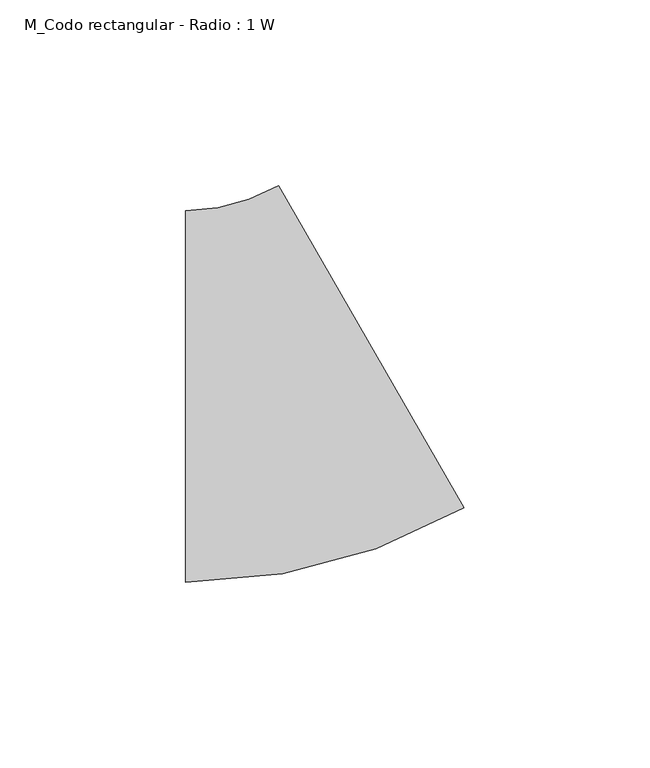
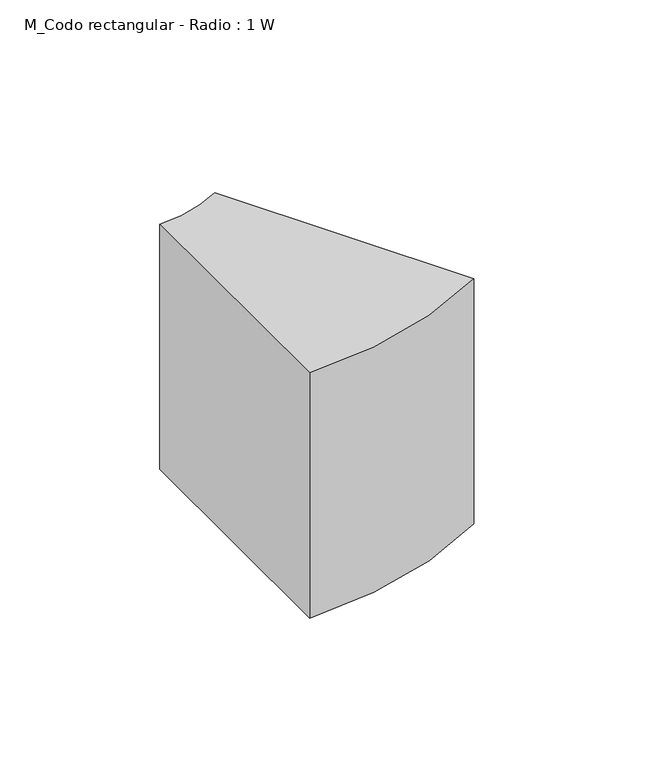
"""IFC4 building model written with IfcOpenShell, lengths in millimetres: duct fitting geometry, M_Codo rectangular - Radio : 1 W."""

from ifc_helpers import new_model, si_unit, point, frame, frame_2d, origin, place, context, project, spatial, polyline, circle_curve, trimmed, segment, composite_curve, outline, extrude, source, transform, mapped, element, save


def m_codo_rectangular_radio_1_w_0082e1d4(model_context):
    return source(origin(), model_context, "Body", "SweptSolid", [
        extrude(outline(composite_curve([segment(trimmed(circle_curve(frame_2d((-26.7949192, 100.0)), 150.0), [point((48.2050808, -29.9038106))], [point((-26.7949192, -50.0))], False, "CARTESIAN"), True, "CONTINUOUS"), segment(polyline([(-26.7949192, -50.0), (-26.7949192, 50.0)]), True, "CONTINUOUS"), segment(trimmed(circle_curve(frame_2d((-26.7949192, 100.0)), 50.0), [point((-26.7949192, 50.0))], [point((-1.7949192, 56.6987298))], True, "CARTESIAN"), True, "CONTINUOUS"), segment(polyline([(-1.7949192, 56.6987298), (48.2050808, -29.9038106)]), True, "CONTINUOUS")], self_intersect=False)), frame((0.0, 0.0, -50.0), z_axis=(0.0, 0.0, 1.0), x_axis=(1.0, 0.0, 0.0)), (0.0, 0.0, 1.0), 100.0),
    ])


if __name__ == "__main__":
    model = new_model("IFC4")
    model_context = context("Model", 3, world=origin())
    ifc_project = project(units=[si_unit("LENGTHUNIT", "METRE", prefix="MILLI")], contexts=[model_context])
    site = spatial("IfcSite", under=ifc_project)
    building = spatial("IfcBuilding", under=site)
    placement = place(None, origin())
    m_codo_rectangular_radio_1_w_shape = m_codo_rectangular_radio_1_w_0082e1d4(model_context)
    element("IfcDuctFitting", 1, ObjectType="M_Codo rectangular - Radio : 1 W", at=placement, inside=building, context=model_context, shape_type="MappedRepresentation", body=[
        mapped(m_codo_rectangular_radio_1_w_shape, transform((0.0, 0.0, 0.0), x_axis=(1.0, 0.0, 0.0), y_axis=(0.0, 1.0, 0.0), z_axis=(0.0, 0.0, 1.0))),
    ])
    save(model, "model.ifc")
